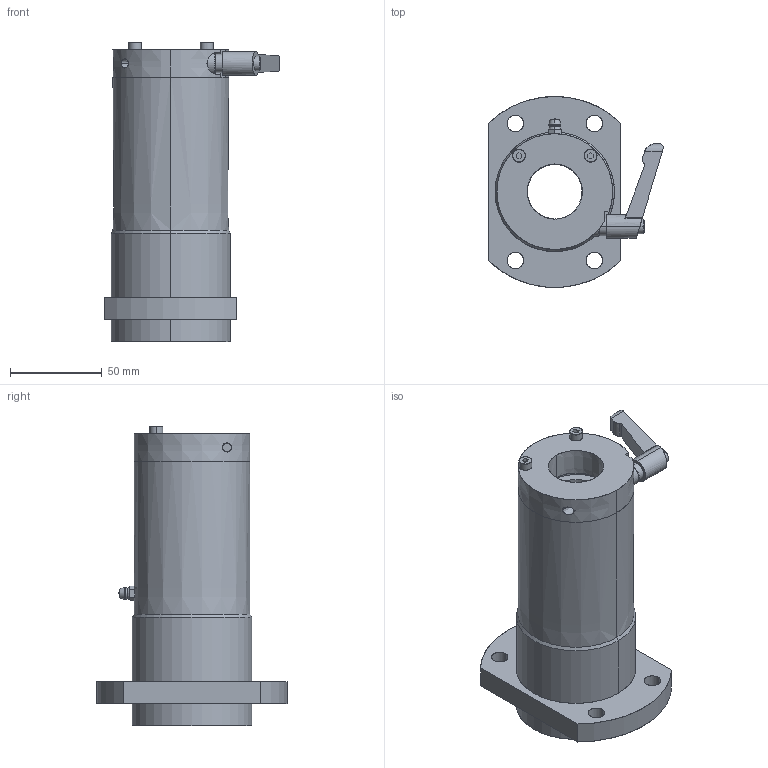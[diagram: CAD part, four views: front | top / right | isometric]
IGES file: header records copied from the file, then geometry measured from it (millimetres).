
Start section: SolidWorks IGES file using analytic representation for surfaces
Global section: file name: C:\Users\yamad\Desktop\IGES\LFWB30-C.IGS; native system: SolidWorks 2019; preprocessor: SolidWorks 2019; author: yamad; date: 230626.171957; units: millimetre
Bounding box: 95.1 x 104 x 163 mm (x, y, z)
Surface area: 80026.9 mm2 (no closed solid volume)
Topology: 0 solids, 0 shells, 237 faces, 5954 edges, 5952 vertices
Faces by surface type: bspline 125, revolution 112
